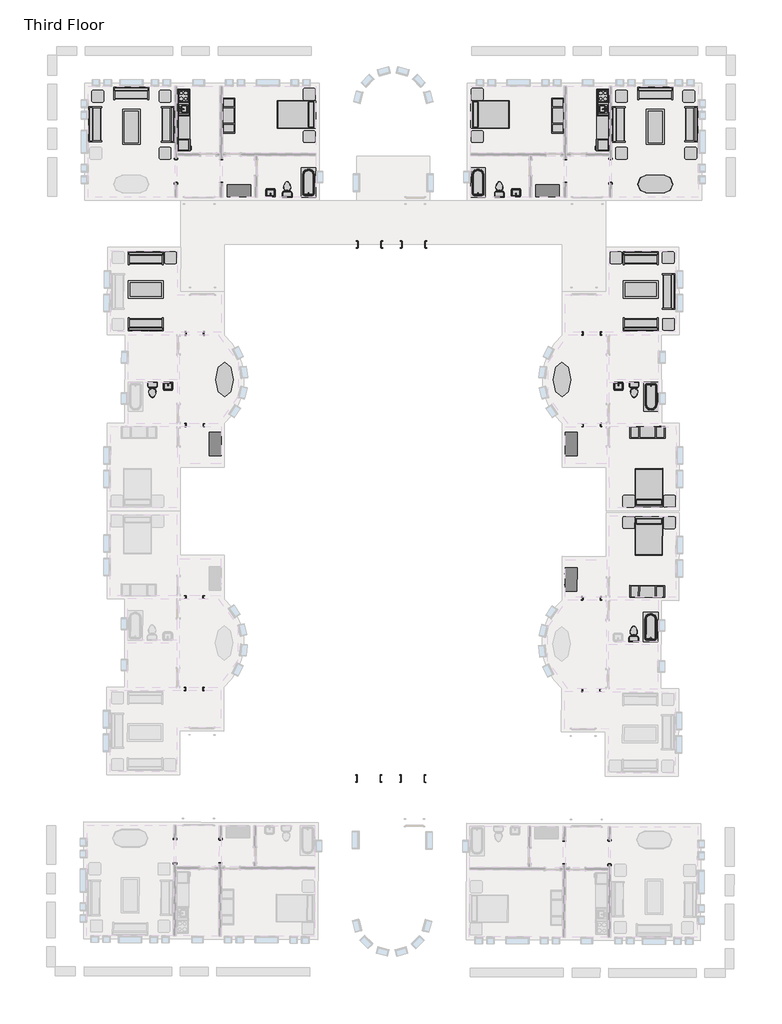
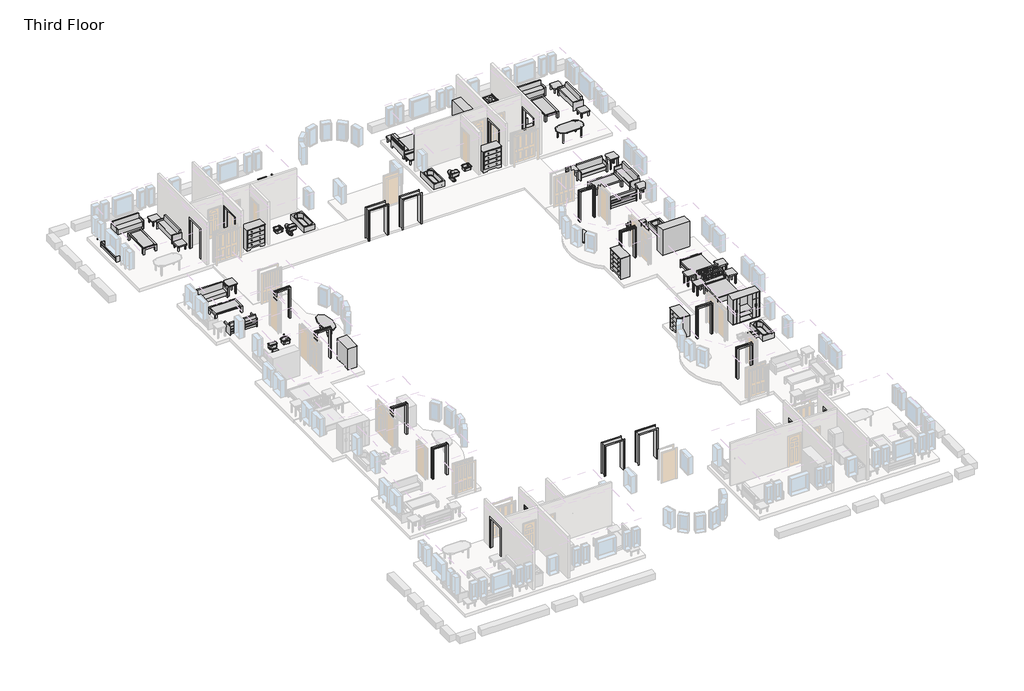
# One storey, part 5 of 5: 52 furniture elements, 28 proxies, 15 flow terminals.
"""IFC4 building model written with IfcOpenShell, lengths in millimetres."""

from ifc_helpers import new_model, si_unit, origin, place, context, project, spatial, transform, mapped, element, save
from components import m_cook_top_4_unit2_0615_x_500mm_249f3515, m_cook_top_4_unit2_0615_x_500mm_c91639ce, m_dishwasher_610_x_610_x_875mm_54ecfc4c, m_dishwasher_610_x_610_x_875mm_75336c20, m_kitchenette_medium_1372mm_e05c6bec, m_kitchenette_medium_1372mm_39f1532f, m_passage_opening_cased_0915_x_2134mm_b7ef4dee, m_passage_opening_cased_0915_x_2134mm_5e741ba8, m_passage_opening_cased_1220_x_2134mm_87a8d9c2, m_passage_opening_cased_1220_x_2134mm_f04423fa, m_passage_opening_cased_1220_x_2134mm_7296280d, m_passage_opening_cased_1220_x_2134mm_b92f2863, m_refrigerator_600_x_660mm_a466bf94, m_refrigerator_600_x_660mm_0a899b9c, m_sink_kitchen_island_450_x_450mm_f969cf2d, m_sink_kitchen_island_450_x_450mm_f6c2c534, m_sink_vanity_square_500_x_440mm_1e229b74, m_sink_vanity_square_500_x_440mm_f3cfe680, m_toilet_domestic_3d_m_toilet_domestic_3d_5cb52bd4, m_toilet_domestic_3d_m_toilet_domestic_3d_183bbd19, m_toilet_domestic_3d_m_toilet_domestic_3d_43425dfb, m_toilet_domestic_3d_m_toilet_domestic_3d_5530cc89, m_tub_rectangular_3d_m_tub_rectangular_3d_3a981ad5, m_tub_rectangular_3d_m_tub_rectangular_3d_c2020133, m_bed_shaker_1422_x_1981mm_double_096e7f55, m_bed_shaker_1422_x_1981mm_double_097b173b, m_counter_top_w_sink_hole_600mm_depth_1fb56bb9, m_counter_top_w_sink_hole_600mm_depth_7e9aa94d, m_dresser_1220_x_1525_x_0610mm_18e1f140, m_dresser_1220_x_1525_x_0610mm_4e5de046, m_entertainment_center_1830_x_1830_x_0610mm_f77a9b93, m_entertainment_center_1830_x_1830_x_0610mm_4f6058a0, m_sofa_1830mm_58d08fc1, m_sofa_1830mm_3da2e71b, m_sofa1_1830mm_f9e8a66b, m_sofa1_1830mm_493d6964, m_table_coffee_0915_x_1830_x_0457mm_134cd960, m_table_coffee_0915_x_1830_x_0457mm_595c1ebd, m_table_dining_oval_0915_x_1830mm_a7cfbe21, m_table_ellipse_1800_x_900mm_fd46d5a5, m_table_ellipse_1800_x_900mm_f7269293, m_table_end_cb6ea12e, m_table_end_aa2764bc, m_table_end_0610_x_0160mm_e0e5b28f, m_table_end_0610_x_0160mm_ccef8dc9

model = new_model("IFC4")

# Units and contexts
model_context = context("Model", 3, world=origin())
ifc_project = project(units=[si_unit("LENGTHUNIT", "METRE", prefix="MILLI")], contexts=[model_context])

# Site, building, storey
site = spatial("IfcSite", under=ifc_project)
building = spatial("IfcBuilding", under=site)
storey = spatial("IfcBuildingStorey", under=building, Name="Third Floor", Elevation=6096.0)

# Proxies
placement = place(None, origin())
m_cook_top_4_unit2_0615_x_500mm_shape = m_cook_top_4_unit2_0615_x_500mm_249f3515(model_context)
element("IfcBuildingElementProxy", 1, Name="M_Cook Top-4 Unit2 : 0615 x 500mm", ObjectType="M_Cook Top-4 Unit2 : 0615 x 500mm", at=placement, inside=storey, context=model_context, shape_type="MappedRepresentation", body=[
    mapped(m_cook_top_4_unit2_0615_x_500mm_shape, transform((-8054.9916203, 1914.054661, 6096.0), x_axis=(0.0, -1.0, 0.0), y_axis=(1.0, 0.0, 0.0), z_axis=(0.0, 0.0, 1.0))),
])
m_cook_top_4_unit2_0615_x_500mm_2_shape = m_cook_top_4_unit2_0615_x_500mm_c91639ce(model_context)
element("IfcBuildingElementProxy", 2, Name="M_Cook Top-4 Unit2 : 0615 x 500mm", ObjectType="M_Cook Top-4 Unit2 : 0615 x 500mm", at=placement, inside=storey, context=model_context, shape_type="MappedRepresentation", body=[
    mapped(m_cook_top_4_unit2_0615_x_500mm_2_shape, transform((-29859.1916203, 1914.054661, 6096.0), x_axis=(0.0, -1.0, 0.0), y_axis=(1.0, 0.0, 0.0), z_axis=(0.0, 0.0, 1.0))),
])
m_dishwasher_610_x_610_x_875mm_shape = m_dishwasher_610_x_610_x_875mm_54ecfc4c(model_context)
element("IfcBuildingElementProxy", 3, Name="M_Dishwasher : 610 x 610 x 875mm", ObjectType="M_Dishwasher : 610 x 610 x 875mm", at=placement, inside=storey, context=model_context, shape_type="MappedRepresentation", body=[
    mapped(m_dishwasher_610_x_610_x_875mm_shape, transform((-8321.6411851, 353.5721295, 6096.0), x_axis=(0.0, -1.0, 0.0), y_axis=(1.0, 0.0, 0.0), z_axis=(0.0, 0.0, 1.0))),
])
m_dishwasher_610_x_610_x_875mm_2_shape = m_dishwasher_610_x_610_x_875mm_75336c20(model_context)
element("IfcBuildingElementProxy", 4, Name="M_Dishwasher : 610 x 610 x 875mm", ObjectType="M_Dishwasher : 610 x 610 x 875mm", at=placement, inside=storey, context=model_context, shape_type="MappedRepresentation", body=[
    mapped(m_dishwasher_610_x_610_x_875mm_2_shape, transform((-29592.5420555, 353.5721295, 6096.0), x_axis=(0.0, -1.0, 0.0), y_axis=(1.0, 0.0, 0.0), z_axis=(0.0, 0.0, 1.0))),
])
m_kitchenette_medium_1372mm_shape = m_kitchenette_medium_1372mm_e05c6bec(model_context)
element("IfcBuildingElementProxy", 5, Name="M_Kitchenette - Medium : 1372mm", ObjectType="M_Kitchenette - Medium : 1372mm", at=placement, inside=storey, context=model_context, shape_type="MappedRepresentation", body=[
    mapped(m_kitchenette_medium_1372mm_shape, transform((-7749.9916203, 1589.7923659, 6096.0), x_axis=(0.0, -1.0, 0.0), y_axis=(1.0, 0.0, 0.0), z_axis=(0.0, 0.0, 1.0))),
])
m_kitchenette_medium_1372mm_2_shape = m_kitchenette_medium_1372mm_39f1532f(model_context)
element("IfcBuildingElementProxy", 6, Name="M_Kitchenette - Medium : 1372mm", ObjectType="M_Kitchenette - Medium : 1372mm", at=placement, inside=storey, context=model_context, shape_type="MappedRepresentation", body=[
    mapped(m_kitchenette_medium_1372mm_2_shape, transform((-30164.1916203, 1589.7923659, 6096.0), x_axis=(0.0, -1.0, 0.0), y_axis=(1.0, 0.0, 0.0), z_axis=(0.0, 0.0, 1.0))),
])
m_passage_opening_cased_0915_x_2134mm_shape = m_passage_opening_cased_0915_x_2134mm_b7ef4dee(model_context)
element("IfcBuildingElementProxy", 7, Name="M_Passage Opening-Cased : 0915 x 2134mm", ObjectType="M_Passage Opening-Cased : 0915 x 2134mm", at=placement, inside=storey, context=model_context, shape_type="MappedRepresentation", body=[
    mapped(m_passage_opening_cased_0915_x_2134mm_shape, transform((-29263.1209408, -10426.1057324, 6096.0), x_axis=(0.9999989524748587, -0.0014474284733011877, 0.0), y_axis=(0.0014474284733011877, 0.9999989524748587, 0.0), z_axis=(0.0, 0.0, 1.0))),
])
element("IfcBuildingElementProxy", 8, Name="M_Passage Opening-Cased : 0915 x 2134mm", ObjectType="M_Passage Opening-Cased : 0915 x 2134mm", at=placement, inside=storey, context=model_context, shape_type="MappedRepresentation", body=[
    mapped(m_passage_opening_cased_0915_x_2134mm_shape, transform((-29270.0280695, -15198.1007336, 6096.0), x_axis=(0.9999989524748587, -0.0014474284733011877, 0.0), y_axis=(0.0014474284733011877, 0.9999989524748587, 0.0), z_axis=(0.0, 0.0, 1.0))),
])
element("IfcBuildingElementProxy", 9, Name="M_Passage Opening-Cased : 0915 x 2134mm", ObjectType="M_Passage Opening-Cased : 0915 x 2134mm", at=placement, inside=storey, context=model_context, shape_type="MappedRepresentation", body=[
    mapped(m_passage_opening_cased_0915_x_2134mm_shape, transform((-8677.908724, -28973.7552644, 6096.0), x_axis=(-0.9999905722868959, 0.004342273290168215, 0.0), y_axis=(-0.004342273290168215, -0.9999905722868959, 0.0), z_axis=(0.0, 0.0, 1.0))),
])
element("IfcBuildingElementProxy", 10, Name="M_Passage Opening-Cased : 0915 x 2134mm", ObjectType="M_Passage Opening-Cased : 0915 x 2134mm", at=placement, inside=storey, context=model_context, shape_type="MappedRepresentation", body=[
    mapped(m_passage_opening_cased_0915_x_2134mm_shape, transform((-8657.1873959, -24201.8002534, 6096.0), x_axis=(-0.9999905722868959, 0.004342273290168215, 0.0), y_axis=(-0.004342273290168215, -0.9999905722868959, 0.0), z_axis=(0.0, 0.0, 1.0))),
])
m_passage_opening_cased_0915_x_2134mm_2_shape = m_passage_opening_cased_0915_x_2134mm_5e741ba8(model_context)
element("IfcBuildingElementProxy", 11, Name="M_Passage Opening-Cased : 0915 x 2134mm", ObjectType="M_Passage Opening-Cased : 0915 x 2134mm", at=placement, inside=storey, context=model_context, shape_type="MappedRepresentation", body=[
    mapped(m_passage_opening_cased_0915_x_2134mm_2_shape, transform((-8651.0622999, -10426.1057324, 6096.0), x_axis=(-0.9999989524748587, -0.0014474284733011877, 0.0), y_axis=(0.0014474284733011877, -0.9999989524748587, 0.0), z_axis=(0.0, 0.0, 1.0))),
])
element("IfcBuildingElementProxy", 12, Name="M_Passage Opening-Cased : 0915 x 2134mm", ObjectType="M_Passage Opening-Cased : 0915 x 2134mm", at=placement, inside=storey, context=model_context, shape_type="MappedRepresentation", body=[
    mapped(m_passage_opening_cased_0915_x_2134mm_2_shape, transform((-8644.1551712, -15198.1007336, 6096.0), x_axis=(-0.9999989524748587, -0.0014474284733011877, 0.0), y_axis=(0.0014474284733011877, -0.9999989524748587, 0.0), z_axis=(0.0, 0.0, 1.0))),
])
element("IfcBuildingElementProxy", 13, Name="M_Passage Opening-Cased : 0915 x 2134mm", ObjectType="M_Passage Opening-Cased : 0915 x 2134mm", at=placement, inside=storey, context=model_context, shape_type="MappedRepresentation", body=[
    mapped(m_passage_opening_cased_0915_x_2134mm_2_shape, transform((-29289.8809984, -28914.0863657, 6096.0), x_axis=(0.9999989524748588, -0.0014474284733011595, 0.0), y_axis=(0.0014474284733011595, 0.9999989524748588, 0.0), z_axis=(0.0, 0.0, 1.0))),
])
element("IfcBuildingElementProxy", 14, Name="M_Passage Opening-Cased : 0915 x 2134mm", ObjectType="M_Passage Opening-Cased : 0915 x 2134mm", at=placement, inside=storey, context=model_context, shape_type="MappedRepresentation", body=[
    mapped(m_passage_opening_cased_0915_x_2134mm_2_shape, transform((-29282.9738697, -24142.0913645, 6096.0), x_axis=(0.9999989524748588, -0.0014474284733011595, 0.0), y_axis=(0.0014474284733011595, 0.9999989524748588, 0.0), z_axis=(0.0, 0.0, 1.0))),
])
m_passage_opening_cased_1220_x_2134mm_shape = m_passage_opening_cased_1220_x_2134mm_87a8d9c2(model_context)
element("IfcBuildingElementProxy", 15, Name="M_Passage Opening-Cased : 1220 x 2134mm", ObjectType="M_Passage Opening-Cased : 1220 x 2134mm", at=placement, inside=storey, context=model_context, shape_type="MappedRepresentation", body=[
    mapped(m_passage_opening_cased_1220_x_2134mm_shape, transform((-7665.3416203, -1982.6925047, 6096.0), x_axis=(0.0, 1.0, 0.0), y_axis=(-1.0, 0.0, 0.0), z_axis=(0.0, 0.0, 1.0))),
])
element("IfcBuildingElementProxy", 16, Name="M_Passage Opening-Cased : 1220 x 2134mm", ObjectType="M_Passage Opening-Cased : 1220 x 2134mm", at=placement, inside=storey, context=model_context, shape_type="MappedRepresentation", body=[
    mapped(m_passage_opening_cased_1220_x_2134mm_shape, transform((-10019.0916203, -1999.0698181, 6096.0), x_axis=(0.0, -1.0, 0.0), y_axis=(1.0, 0.0, 0.0), z_axis=(0.0, 0.0, 1.0))),
])
element("IfcBuildingElementProxy", 17, Name="M_Passage Opening-Cased : 1220 x 2134mm", ObjectType="M_Passage Opening-Cased : 1220 x 2134mm", at=placement, inside=storey, context=model_context, shape_type="MappedRepresentation", body=[
    mapped(m_passage_opening_cased_1220_x_2134mm_shape, transform((-30300.0399955, -37354.6106974, 6096.0), x_axis=(-0.0028948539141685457, -0.9999958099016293, 0.0), y_axis=(0.9999958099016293, -0.0028948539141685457, 0.0), z_axis=(0.0, 0.0, 1.0))),
])
element("IfcBuildingElementProxy", 18, Name="M_Passage Opening-Cased : 1220 x 2134mm", ObjectType="M_Passage Opening-Cased : 1220 x 2134mm", at=placement, inside=storey, context=model_context, shape_type="MappedRepresentation", body=[
    mapped(m_passage_opening_cased_1220_x_2134mm_shape, transform((-27946.252448, -37345.047215, 6096.0), x_axis=(0.0028948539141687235, 0.9999958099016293, 0.0), y_axis=(-0.9999958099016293, 0.0028948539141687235, 0.0), z_axis=(0.0, 0.0, 1.0))),
])
m_passage_opening_cased_1220_x_2134mm_2_shape = m_passage_opening_cased_1220_x_2134mm_f04423fa(model_context)
element("IfcBuildingElementProxy", 19, Name="M_Passage Opening-Cased : 1220 x 2134mm", ObjectType="M_Passage Opening-Cased : 1220 x 2134mm", at=placement, inside=storey, context=model_context, shape_type="MappedRepresentation", body=[
    mapped(m_passage_opening_cased_1220_x_2134mm_2_shape, transform((-17916.280277, -5800.8811614, 6096.0), x_axis=(-1.0, 0.0, 0.0), y_axis=(0.0, -1.0, 0.0), z_axis=(0.0, 0.0, 1.0))),
])
element("IfcBuildingElementProxy", 20, Name="M_Passage Opening-Cased : 1220 x 2134mm", ObjectType="M_Passage Opening-Cased : 1220 x 2134mm", at=placement, inside=storey, context=model_context, shape_type="MappedRepresentation", body=[
    mapped(m_passage_opening_cased_1220_x_2134mm_2_shape, transform((-20185.9029636, -5800.8811614, 6096.0), x_axis=(1.0, 0.0, 0.0), y_axis=(0.0, 1.0, 0.0), z_axis=(0.0, 0.0, 1.0))),
])
m_passage_opening_cased_1220_x_2134mm_3_shape = m_passage_opening_cased_1220_x_2134mm_7296280d(model_context)
element("IfcBuildingElementProxy", 21, Name="M_Passage Opening-Cased : 1220 x 2134mm", ObjectType="M_Passage Opening-Cased : 1220 x 2134mm", at=placement, inside=storey, context=model_context, shape_type="MappedRepresentation", body=[
    mapped(m_passage_opening_cased_1220_x_2134mm_3_shape, transform((-30248.8416203, -1982.6925047, 6096.0), x_axis=(0.0, 1.0, 0.0), y_axis=(-1.0, 0.0, 0.0), z_axis=(0.0, 0.0, 1.0))),
])
element("IfcBuildingElementProxy", 22, Name="M_Passage Opening-Cased : 1220 x 2134mm", ObjectType="M_Passage Opening-Cased : 1220 x 2134mm", at=placement, inside=storey, context=model_context, shape_type="MappedRepresentation", body=[
    mapped(m_passage_opening_cased_1220_x_2134mm_3_shape, transform((-27895.0916203, -1999.0698181, 6096.0), x_axis=(0.0, -1.0, 0.0), y_axis=(1.0, 0.0, 0.0), z_axis=(0.0, 0.0, 1.0))),
])
element("IfcBuildingElementProxy", 23, Name="M_Passage Opening-Cased : 1220 x 2134mm", ObjectType="M_Passage Opening-Cased : 1220 x 2134mm", at=placement, inside=storey, context=model_context, shape_type="MappedRepresentation", body=[
    mapped(m_passage_opening_cased_1220_x_2134mm_3_shape, transform((-7716.6346226, -37419.9866307, 6096.0), x_axis=(-0.0028948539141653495, -0.9999958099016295, 0.0), y_axis=(0.9999958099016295, -0.0028948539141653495, 0.0), z_axis=(0.0, 0.0, 1.0))),
])
element("IfcBuildingElementProxy", 24, Name="M_Passage Opening-Cased : 1220 x 2134mm", ObjectType="M_Passage Opening-Cased : 1220 x 2134mm", at=placement, inside=storey, context=model_context, shape_type="MappedRepresentation", body=[
    mapped(m_passage_opening_cased_1220_x_2134mm_3_shape, transform((-10070.3273502, -37396.7956235, 6096.0), x_axis=(0.0028948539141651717, 0.9999958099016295, 0.0), y_axis=(-0.9999958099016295, 0.0028948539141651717, 0.0), z_axis=(0.0, 0.0, 1.0))),
])
m_passage_opening_cased_1220_x_2134mm_4_shape = m_passage_opening_cased_1220_x_2134mm_b92f2863(model_context)
element("IfcBuildingElementProxy", 25, Name="M_Passage Opening-Cased : 1220 x 2134mm", ObjectType="M_Passage Opening-Cased : 1220 x 2134mm", at=placement, inside=storey, context=model_context, shape_type="MappedRepresentation", body=[
    mapped(m_passage_opening_cased_1220_x_2134mm_4_shape, transform((-17956.4772285, -33572.1390027, 6096.0), x_axis=(-0.9999958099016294, 0.0028948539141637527, 0.0), y_axis=(-0.0028948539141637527, -0.9999958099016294, 0.0), z_axis=(0.0, 0.0, 1.0))),
])
element("IfcBuildingElementProxy", 26, Name="M_Passage Opening-Cased : 1220 x 2134mm", ObjectType="M_Passage Opening-Cased : 1220 x 2134mm", at=placement, inside=storey, context=model_context, shape_type="MappedRepresentation", body=[
    mapped(m_passage_opening_cased_1220_x_2134mm_4_shape, transform((-20226.0904051, -33565.5687766, 6096.0), x_axis=(0.9999958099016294, -0.0028948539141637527, 0.0), y_axis=(0.0028948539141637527, 0.9999958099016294, 0.0), z_axis=(0.0, 0.0, 1.0))),
])
m_refrigerator_600_x_660mm_shape = m_refrigerator_600_x_660mm_a466bf94(model_context)
element("IfcBuildingElementProxy", 27, Name="M_Refrigerator : 600 x 660mm", ObjectType="M_Refrigerator : 600 x 660mm", at=placement, inside=storey, context=model_context, shape_type="MappedRepresentation", body=[
    mapped(m_refrigerator_600_x_660mm_shape, transform((-8046.2067105, -687.7464817, 6096.0), x_axis=(0.0, -1.0, 0.0), y_axis=(1.0, 0.0, 0.0), z_axis=(0.0, 0.0, 1.0))),
])
m_refrigerator_600_x_660mm_2_shape = m_refrigerator_600_x_660mm_0a899b9c(model_context)
element("IfcBuildingElementProxy", 28, Name="M_Refrigerator : 600 x 660mm", ObjectType="M_Refrigerator : 600 x 660mm", at=placement, inside=storey, context=model_context, shape_type="MappedRepresentation", body=[
    mapped(m_refrigerator_600_x_660mm_2_shape, transform((-29867.9765301, -687.7464817, 6096.0), x_axis=(0.0, -1.0, 0.0), y_axis=(1.0, 0.0, 0.0), z_axis=(0.0, 0.0, 1.0))),
])

# Flow terminals
m_sink_kitchen_island_450_x_450mm_shape = m_sink_kitchen_island_450_x_450mm_f969cf2d(model_context)
element("IfcFlowTerminal", 29, ObjectType="M_Sink Kitchen-Island : 450 x 450mm", at=placement, inside=storey, context=model_context, shape_type="MappedRepresentation", body=[
    mapped(m_sink_kitchen_island_450_x_450mm_shape, transform((-8057.3370214, 1243.7439015, 6096.0), x_axis=(0.0, -1.0, 0.0), y_axis=(1.0, 0.0, 0.0), z_axis=(0.0, 0.0, 1.0))),
])
m_sink_kitchen_island_450_x_450mm_2_shape = m_sink_kitchen_island_450_x_450mm_f6c2c534(model_context)
element("IfcFlowTerminal", 30, ObjectType="M_Sink Kitchen-Island : 450 x 450mm", at=placement, inside=storey, context=model_context, shape_type="MappedRepresentation", body=[
    mapped(m_sink_kitchen_island_450_x_450mm_2_shape, transform((-29856.8462192, 1243.7439015, 6096.0), x_axis=(0.0, -1.0, 0.0), y_axis=(1.0, 0.0, 0.0), z_axis=(0.0, 0.0, 1.0))),
])
m_sink_vanity_square_500_x_440mm_shape = m_sink_vanity_square_500_x_440mm_1e229b74(model_context)
element("IfcFlowTerminal", 31, ObjectType="M_Sink Vanity-Square : 500 x 440mm", at=placement, inside=storey, context=model_context, shape_type="MappedRepresentation", body=[
    mapped(m_sink_vanity_square_500_x_440mm_shape, transform((-12563.5523798, -3158.1107603, 6096.0), x_axis=(-1.0, 0.0, 0.0), y_axis=(0.0, -1.0, 0.0), z_axis=(0.0, 0.0, 1.0))),
])
element("IfcFlowTerminal", 32, ObjectType="M_Sink Vanity-Square : 500 x 440mm", at=placement, inside=storey, context=model_context, shape_type="MappedRepresentation", body=[
    mapped(m_sink_vanity_square_500_x_440mm_shape, transform((-30677.3455366, -13134.5069817, 6096.0), x_axis=(0.9999989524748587, -0.001447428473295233, 0.0), y_axis=(0.0014474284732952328, 0.9999989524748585, 0.0), z_axis=(0.0, 0.0, 0.9999999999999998))),
])
m_sink_vanity_square_500_x_440mm_2_shape = m_sink_vanity_square_500_x_440mm_f3cfe680(model_context)
element("IfcFlowTerminal", 33, ObjectType="M_Sink Vanity-Square : 500 x 440mm", at=placement, inside=storey, context=model_context, shape_type="MappedRepresentation", body=[
    mapped(m_sink_vanity_square_500_x_440mm_2_shape, transform((-7236.8377041, -13134.5069817, 6096.0), x_axis=(-0.9999989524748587, -0.001447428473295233, 0.0), y_axis=(0.0014474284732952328, -0.9999989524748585, 0.0), z_axis=(0.0, 0.0, 0.9999999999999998))),
])
element("IfcFlowTerminal", 34, ObjectType="M_Sink Vanity-Square : 500 x 440mm", at=placement, inside=storey, context=model_context, shape_type="MappedRepresentation", body=[
    mapped(m_sink_vanity_square_500_x_440mm_2_shape, transform((-25350.6308609, -3158.1107603, 6096.0), x_axis=(1.0, 0.0, 0.0), y_axis=(0.0, 1.0, 0.0), z_axis=(0.0, 0.0, 1.0))),
])
m_toilet_domestic_3d_m_toilet_domestic_3d_shape = m_toilet_domestic_3d_m_toilet_domestic_3d_5cb52bd4(model_context)
m_toilet_domestic_3d_m_toilet_domestic_3d_2_shape = m_toilet_domestic_3d_m_toilet_domestic_3d_183bbd19(model_context)
element("IfcFlowTerminal", 35, ObjectType="M_Toilet-Domestic-3D : M_Toilet-Domestic-3D", at=placement, inside=storey, context=model_context, shape_type="MappedRepresentation", body=[
    mapped(m_toilet_domestic_3d_m_toilet_domestic_3d_shape, transform((-13440.7376477, -2845.185134, 6096.0), x_axis=(-1.0, 0.0, 0.0), y_axis=(0.0, -1.0, 0.0), z_axis=(0.0, 0.0, 1.0))),
    mapped(m_toilet_domestic_3d_m_toilet_domestic_3d_2_shape, transform((-13440.7376477, -2845.185134, 6096.0), x_axis=(-1.0, 0.0, 0.0), y_axis=(0.0, -1.0, 0.0), z_axis=(0.0, 0.0, 1.0))),
])
m_toilet_domestic_3d_m_toilet_domestic_3d_3_shape = m_toilet_domestic_3d_m_toilet_domestic_3d_43425dfb(model_context)
m_toilet_domestic_3d_m_toilet_domestic_3d_4_shape = m_toilet_domestic_3d_m_toilet_domestic_3d_5530cc89(model_context)
element("IfcFlowTerminal", 36, ObjectType="M_Toilet-Domestic-3D : M_Toilet-Domestic-3D", at=placement, inside=storey, context=model_context, shape_type="MappedRepresentation", body=[
    mapped(m_toilet_domestic_3d_m_toilet_domestic_3d_3_shape, transform((-24473.445593, -2845.185134, 6096.0), x_axis=(1.0, 0.0, 0.0), y_axis=(0.0, 1.0, 0.0), z_axis=(0.0, 0.0, 1.0))),
    mapped(m_toilet_domestic_3d_m_toilet_domestic_3d_4_shape, transform((-24473.445593, -2845.185134, 6096.0), x_axis=(1.0, 0.0, 0.0), y_axis=(0.0, 1.0, 0.0), z_axis=(0.0, 0.0, 1.0))),
])
element("IfcFlowTerminal", 37, ObjectType="M_Toilet-Domestic-3D1 : M_Toilet-Domestic-3D", at=placement, inside=storey, context=model_context, shape_type="MappedRepresentation", body=[
    mapped(m_toilet_domestic_3d_m_toilet_domestic_3d_shape, transform((-31475.0435019, -13456.0033339, 6096.0), x_axis=(0.9999989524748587, -0.001447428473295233, 0.0), y_axis=(0.0014474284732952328, 0.9999989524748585, 0.0), z_axis=(0.0, 0.0, 0.9999999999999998))),
    mapped(m_toilet_domestic_3d_m_toilet_domestic_3d_2_shape, transform((-31475.0435019, -13456.0033339, 6096.0), x_axis=(0.9999989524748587, -0.001447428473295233, 0.0), y_axis=(0.0014474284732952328, 0.9999989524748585, 0.0), z_axis=(0.0, 0.0, 0.9999999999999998))),
])
element("IfcFlowTerminal", 38, ObjectType="M_Toilet-Domestic-3D1 : M_Toilet-Domestic-3D", at=placement, inside=storey, context=model_context, shape_type="MappedRepresentation", body=[
    mapped(m_toilet_domestic_3d_m_toilet_domestic_3d_shape, transform((-6457.2243201, -25950.2735511, 6096.0), x_axis=(-0.9999905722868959, 0.00434227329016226, 0.0), y_axis=(-0.0043422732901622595, -0.9999905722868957, 0.0), z_axis=(0.0, 0.0, 0.9999999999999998))),
    mapped(m_toilet_domestic_3d_m_toilet_domestic_3d_2_shape, transform((-6457.2243201, -25950.2735511, 6096.0), x_axis=(-0.9999905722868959, 0.00434227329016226, 0.0), y_axis=(-0.0043422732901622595, -0.9999905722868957, 0.0), z_axis=(0.0, 0.0, 0.9999999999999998))),
])
element("IfcFlowTerminal", 39, ObjectType="M_Toilet-Domestic-3D1 : M_Toilet-Domestic-3D", at=placement, inside=storey, context=model_context, shape_type="MappedRepresentation", body=[
    mapped(m_toilet_domestic_3d_m_toilet_domestic_3d_3_shape, transform((-6439.1397387, -13456.0033339, 6096.0), x_axis=(-0.9999989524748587, -0.001447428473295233, 0.0), y_axis=(0.0014474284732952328, -0.9999989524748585, 0.0), z_axis=(0.0, 0.0, 0.9999999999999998))),
    mapped(m_toilet_domestic_3d_m_toilet_domestic_3d_4_shape, transform((-6439.1397387, -13456.0033339, 6096.0), x_axis=(-0.9999989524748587, -0.001447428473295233, 0.0), y_axis=(0.0014474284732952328, -0.9999989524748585, 0.0), z_axis=(0.0, 0.0, 0.9999999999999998))),
])
m_tub_rectangular_3d_m_tub_rectangular_3d_shape = m_tub_rectangular_3d_m_tub_rectangular_3d_3a981ad5(model_context)
element("IfcFlowTerminal", 40, ObjectType="M_Tub-Rectangular-3D : M_Tub-Rectangular-3D", at=placement, inside=storey, context=model_context, shape_type="MappedRepresentation", body=[
    mapped(m_tub_rectangular_3d_m_tub_rectangular_3d_shape, transform((-15110.3416203, -2229.2781927, 6096.0), x_axis=(0.0, 1.0, 0.0), y_axis=(-1.0, 0.0, 0.0), z_axis=(0.0, 0.0, 1.0))),
])
element("IfcFlowTerminal", 41, ObjectType="M_Tub-Rectangular-3D : M_Tub-Rectangular-3D", at=placement, inside=storey, context=model_context, shape_type="MappedRepresentation", body=[
    mapped(m_tub_rectangular_3d_m_tub_rectangular_3d_shape, transform((-5003.7957874, -14069.8333606, 6096.0), x_axis=(0.0014474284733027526, -0.9999989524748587, 0.0), y_axis=(0.9999989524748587, 0.0014474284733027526, 0.0), z_axis=(0.0, 0.0, 1.0))),
])
m_tub_rectangular_3d_m_tub_rectangular_3d_2_shape = m_tub_rectangular_3d_m_tub_rectangular_3d_c2020133(model_context)
element("IfcFlowTerminal", 42, ObjectType="M_Tub-Rectangular-3D : M_Tub-Rectangular-3D", at=placement, inside=storey, context=model_context, shape_type="MappedRepresentation", body=[
    mapped(m_tub_rectangular_3d_m_tub_rectangular_3d_2_shape, transform((-22803.8416203, -2229.2781927, 6096.0), x_axis=(0.0, 1.0, 0.0), y_axis=(-1.0, 0.0, 0.0), z_axis=(0.0, 0.0, 1.0))),
])
element("IfcFlowTerminal", 43, ObjectType="M_Tub-Rectangular-3D : M_Tub-Rectangular-3D", at=placement, inside=storey, context=model_context, shape_type="MappedRepresentation", body=[
    mapped(m_tub_rectangular_3d_m_tub_rectangular_3d_2_shape, transform((-5020.1094348, -25340.6012075, 6096.0), x_axis=(0.004342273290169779, 0.9999905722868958, 0.0), y_axis=(-0.9999905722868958, 0.004342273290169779, 0.0), z_axis=(0.0, 0.0, 1.0))),
])

# Furniture
m_bed_shaker_1422_x_1981mm_double_shape = m_bed_shaker_1422_x_1981mm_double_096e7f55(model_context)
element("IfcFurniture", 44, ObjectType="M_Bed-Shaker : 1422 x 1981mm - Double", at=placement, inside=storey, context=model_context, shape_type="MappedRepresentation", body=[
    mapped(m_bed_shaker_1422_x_1981mm_double_shape, transform((-14905.3416203, 963.9688386, 6096.0), x_axis=(0.0, 1.0, 0.0), y_axis=(-1.0, 0.0, 0.0), z_axis=(0.0, 0.0, 1.0))),
])
element("IfcFurniture", 45, ObjectType="M_Bed-Shaker : 1422 x 1981mm - Double", at=placement, inside=storey, context=model_context, shape_type="MappedRepresentation", body=[
    mapped(m_bed_shaker_1422_x_1981mm_double_shape, transform((-5649.5787089, -19977.8202898, 6096.0), x_axis=(0.9999905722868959, -0.004342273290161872, 0.0), y_axis=(0.004342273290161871, 0.9999905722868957, 0.0), z_axis=(0.0, 0.0, 0.9999999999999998))),
])
m_bed_shaker_1422_x_1981mm_double_2_shape = m_bed_shaker_1422_x_1981mm_double_097b173b(model_context)
element("IfcFurniture", 46, ObjectType="M_Bed-Shaker : 1422 x 1981mm - Double", at=placement, inside=storey, context=model_context, shape_type="MappedRepresentation", body=[
    mapped(m_bed_shaker_1422_x_1981mm_double_2_shape, transform((-5648.7868913, -19430.7695861, 6096.0), x_axis=(0.9999989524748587, 0.0014474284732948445, 0.0), y_axis=(-0.0014474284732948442, 0.9999989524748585, 0.0), z_axis=(0.0, 0.0, 0.9999999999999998))),
])
element("IfcFurniture", 47, ObjectType="M_Bed-Shaker : 1422 x 1981mm - Double", at=placement, inside=storey, context=model_context, shape_type="MappedRepresentation", body=[
    mapped(m_bed_shaker_1422_x_1981mm_double_2_shape, transform((-23008.8416203, 963.9688386, 6096.0), x_axis=(0.0, 1.0, 0.0), y_axis=(-1.0, 0.0, 0.0), z_axis=(0.0, 0.0, 1.0))),
])
m_counter_top_w_sink_hole_600mm_depth_shape = m_counter_top_w_sink_hole_600mm_depth_1fb56bb9(model_context)
element("IfcFurniture", 48, ObjectType="M_Counter Top w Sink Hole : 600mm Depth", at=placement, inside=storey, context=model_context, shape_type="MappedRepresentation", body=[
    mapped(m_counter_top_w_sink_hole_600mm_depth_shape, transform((-7749.9916203, 1056.5923659, 6096.0), x_axis=(0.0, -1.0, 0.0), y_axis=(1.0, 0.0, 0.0), z_axis=(0.0, 0.0, 1.0))),
])
m_counter_top_w_sink_hole_600mm_depth_2_shape = m_counter_top_w_sink_hole_600mm_depth_7e9aa94d(model_context)
element("IfcFurniture", 49, ObjectType="M_Counter Top w Sink Hole : 600mm Depth", at=placement, inside=storey, context=model_context, shape_type="MappedRepresentation", body=[
    mapped(m_counter_top_w_sink_hole_600mm_depth_2_shape, transform((-30164.1916203, 1056.5923659, 6096.0), x_axis=(0.0, -1.0, 0.0), y_axis=(1.0, 0.0, 0.0), z_axis=(0.0, 0.0, 1.0))),
])
m_dresser_1220_x_1525_x_0610mm_shape = m_dresser_1220_x_1525_x_0610mm_18e1f140(model_context)
element("IfcFurniture", 50, ObjectType="M_Dresser : 1220 x 1525 x 0610mm", at=placement, inside=storey, context=model_context, shape_type="MappedRepresentation", body=[
    mapped(m_dresser_1220_x_1525_x_0610mm_shape, transform((-10667.6483605, -2647.7182073, 6096.0), x_axis=(1.0, 0.0, 0.0), y_axis=(0.0, 1.0, 0.0), z_axis=(0.0, 0.0, 1.0))),
])
element("IfcFurniture", 51, ObjectType="M_Dresser : 1220 x 1525 x 0610mm", at=placement, inside=storey, context=model_context, shape_type="MappedRepresentation", body=[
    mapped(m_dresser_1220_x_1525_x_0610mm_shape, transform((-28574.6164889, -15914.9147832, 6096.0), x_axis=(0.0014474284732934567, 0.9999989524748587, 0.0), y_axis=(-0.9999989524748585, 0.0014474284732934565, 0.0), z_axis=(0.0, 0.0, 0.9999999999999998))),
])
element("IfcFurniture", 52, ObjectType="M_Dresser : 1220 x 1525 x 0610mm", at=placement, inside=storey, context=model_context, shape_type="MappedRepresentation", body=[
    mapped(m_dresser_1220_x_1525_x_0610mm_shape, transform((-9350.5209907, -23482.9760924, 6096.0), x_axis=(-0.004342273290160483, -0.9999905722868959, 0.0), y_axis=(0.9999905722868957, -0.004342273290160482, 0.0), z_axis=(0.0, 0.0, 0.9999999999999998))),
])
m_dresser_1220_x_1525_x_0610mm_2_shape = m_dresser_1220_x_1525_x_0610mm_4e5de046(model_context)
element("IfcFurniture", 53, ObjectType="M_Dresser : 1220 x 1525 x 0610mm", at=placement, inside=storey, context=model_context, shape_type="MappedRepresentation", body=[
    mapped(m_dresser_1220_x_1525_x_0610mm_2_shape, transform((-9339.5667518, -15914.9147832, 6096.0), x_axis=(-0.0014474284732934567, 0.9999989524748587, 0.0), y_axis=(-0.9999989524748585, -0.0014474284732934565, 0.0), z_axis=(0.0, 0.0, 0.9999999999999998))),
])
element("IfcFurniture", 54, ObjectType="M_Dresser : 1220 x 1525 x 0610mm", at=placement, inside=storey, context=model_context, shape_type="MappedRepresentation", body=[
    mapped(m_dresser_1220_x_1525_x_0610mm_2_shape, transform((-27246.5348802, -2647.7182073, 6096.0), x_axis=(-1.0, 0.0, 0.0), y_axis=(0.0, -1.0, 0.0), z_axis=(0.0, 0.0, 1.0))),
])
m_entertainment_center_1830_x_1830_x_0610mm_shape = m_entertainment_center_1830_x_1830_x_0610mm_f77a9b93(model_context)
element("IfcFurniture", 55, ObjectType="M_Entertainment center : 1830 x 1830 x 0610mm", at=placement, inside=storey, context=model_context, shape_type="MappedRepresentation", body=[
    mapped(m_entertainment_center_1830_x_1830_x_0610mm_shape, transform((-10818.2416203, 891.1188386, 6096.0), x_axis=(0.0, 1.0, 0.0), y_axis=(-1.0, 0.0, 0.0), z_axis=(0.0, 0.0, 1.0))),
])
element("IfcFurniture", 56, ObjectType="M_Entertainment center : 1830 x 1830 x 0610mm", at=placement, inside=storey, context=model_context, shape_type="MappedRepresentation", body=[
    mapped(m_entertainment_center_1830_x_1830_x_0610mm_shape, transform((-5751.8113346, -23428.0088952, 6096.0), x_axis=(0.9999905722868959, -0.004342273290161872, 0.0), y_axis=(0.004342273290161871, 0.9999905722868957, 0.0), z_axis=(0.0, 0.0, 0.9999999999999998))),
])
m_entertainment_center_1830_x_1830_x_0610mm_2_shape = m_entertainment_center_1830_x_1830_x_0610mm_4f6058a0(model_context)
element("IfcFurniture", 57, ObjectType="M_Entertainment center : 1830 x 1830 x 0610mm", at=placement, inside=storey, context=model_context, shape_type="MappedRepresentation", body=[
    mapped(m_entertainment_center_1830_x_1830_x_0610mm_2_shape, transform((-5741.0312966, -15980.2994888, 6096.0), x_axis=(0.9999989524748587, 0.0014474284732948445, 0.0), y_axis=(-0.0014474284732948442, 0.9999989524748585, 0.0), z_axis=(0.0, 0.0, 0.9999999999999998))),
])
element("IfcFurniture", 58, ObjectType="M_Entertainment center : 1830 x 1830 x 0610mm", at=placement, inside=storey, context=model_context, shape_type="MappedRepresentation", body=[
    mapped(m_entertainment_center_1830_x_1830_x_0610mm_2_shape, transform((-27095.9416203, 891.1188386, 6096.0), x_axis=(0.0, 1.0, 0.0), y_axis=(-1.0, 0.0, 0.0), z_axis=(0.0, 0.0, 1.0))),
])
m_sofa_1830mm_shape = m_sofa_1830mm_58d08fc1(model_context)
element("IfcFurniture", 59, ObjectType="M_Sofa : 1830mm", at=placement, inside=storey, context=model_context, shape_type="MappedRepresentation", body=[
    mapped(m_sofa_1830mm_shape, transform((-5413.7121121, 1899.9647403, 6096.0), x_axis=(1.0, 0.0, 0.0), y_axis=(0.0, 1.0, 0.0), z_axis=(0.0, 0.0, 1.0))),
])
element("IfcFurniture", 60, ObjectType="M_Sofa : 1830mm", at=placement, inside=storey, context=model_context, shape_type="MappedRepresentation", body=[
    mapped(m_sofa_1830mm_shape, transform((-3617.1736471, 517.2688343, 6096.0), x_axis=(0.0, -1.0, 0.0), y_axis=(1.0, 0.0, 0.0), z_axis=(0.0, 0.0, 1.0))),
])
element("IfcFurniture", 61, ObjectType="M_Sofa : 1830mm", at=placement, inside=storey, context=model_context, shape_type="MappedRepresentation", body=[
    mapped(m_sofa_1830mm_shape, transform((-7088.437522, 355.7483468, 6096.0), x_axis=(0.0, 1.0, 0.0), y_axis=(-1.0, 0.0, 0.0), z_axis=(0.0, 0.0, 1.0))),
])
m_sofa_1830mm_2_shape = m_sofa_1830mm_3da2e71b(model_context)
element("IfcFurniture", 62, ObjectType="M_Sofa : 1830mm", at=placement, inside=storey, context=model_context, shape_type="MappedRepresentation", body=[
    mapped(m_sofa_1830mm_2_shape, transform((-32500.4711285, 1899.9647403, 6096.0), x_axis=(-1.0, 0.0, 0.0), y_axis=(0.0, -1.0, 0.0), z_axis=(0.0, 0.0, 1.0))),
])
element("IfcFurniture", 63, ObjectType="M_Sofa : 1830mm", at=placement, inside=storey, context=model_context, shape_type="MappedRepresentation", body=[
    mapped(m_sofa_1830mm_2_shape, transform((-34297.0095936, 517.2688343, 6096.0), x_axis=(0.0, -1.0, 0.0), y_axis=(1.0, 0.0, 0.0), z_axis=(0.0, 0.0, 1.0))),
])
element("IfcFurniture", 64, ObjectType="M_Sofa : 1830mm", at=placement, inside=storey, context=model_context, shape_type="MappedRepresentation", body=[
    mapped(m_sofa_1830mm_2_shape, transform((-30825.7457187, 355.7483468, 6096.0), x_axis=(0.0, 1.0, 0.0), y_axis=(-1.0, 0.0, 0.0), z_axis=(0.0, 0.0, 1.0))),
])
m_sofa1_1830mm_shape = m_sofa1_1830mm_f9e8a66b(model_context)
element("IfcFurniture", 65, ObjectType="M_Sofa1 : 1830mm", at=placement, inside=storey, context=model_context, shape_type="MappedRepresentation", body=[
    mapped(m_sofa1_1830mm_shape, transform((-31753.247914, -9808.5967065, 6096.0), x_axis=(-0.9999989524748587, 0.0014474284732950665, 0.0), y_axis=(-0.0014474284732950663, -0.9999989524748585, 0.0), z_axis=(0.0, 0.0, 0.9999999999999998))),
])
element("IfcFurniture", 66, ObjectType="M_Sofa1 : 1830mm", at=placement, inside=storey, context=model_context, shape_type="MappedRepresentation", body=[
    mapped(m_sofa1_1830mm_shape, transform((-31889.4482513, -6671.4544767, 6096.0), x_axis=(0.9999989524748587, -0.001447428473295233, 0.0), y_axis=(0.0014474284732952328, 0.9999989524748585, 0.0), z_axis=(0.0, 0.0, 0.9999999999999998))),
])
m_sofa1_1830mm_2_shape = m_sofa1_1830mm_493d6964(model_context)
element("IfcFurniture", 67, ObjectType="M_Sofa1 : 1830mm", at=placement, inside=storey, context=model_context, shape_type="MappedRepresentation", body=[
    mapped(m_sofa1_1830mm_2_shape, transform((-4803.866496, -8323.9054813, 6096.0), x_axis=(-0.0014474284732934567, 0.9999989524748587, 0.0), y_axis=(-0.9999989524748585, -0.0014474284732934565, 0.0), z_axis=(0.0, 0.0, 0.9999999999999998))),
])
element("IfcFurniture", 68, ObjectType="M_Sofa1 : 1830mm", at=placement, inside=storey, context=model_context, shape_type="MappedRepresentation", body=[
    mapped(m_sofa1_1830mm_2_shape, transform((-6160.9353266, -9808.5967065, 6096.0), x_axis=(0.9999989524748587, 0.0014474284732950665, 0.0), y_axis=(-0.0014474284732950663, 0.9999989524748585, 0.0), z_axis=(0.0, 0.0, 0.9999999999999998))),
])
element("IfcFurniture", 69, ObjectType="M_Sofa1 : 1830mm", at=placement, inside=storey, context=model_context, shape_type="MappedRepresentation", body=[
    mapped(m_sofa1_1830mm_2_shape, transform((-6024.7349893, -6671.4544767, 6096.0), x_axis=(-0.9999989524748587, -0.001447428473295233, 0.0), y_axis=(0.0014474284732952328, -0.9999989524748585, 0.0), z_axis=(0.0, 0.0, 0.9999999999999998))),
])
m_table_coffee_0915_x_1830_x_0457mm_shape = m_table_coffee_0915_x_1830_x_0457mm_134cd960(model_context)
element("IfcFurniture", 70, ObjectType="M_Table-Coffee : 0915 x 1830 x 0457mm", at=placement, inside=storey, context=model_context, shape_type="MappedRepresentation", body=[
    mapped(m_table_coffee_0915_x_1830_x_0457mm_shape, transform((-5248.1305425, 287.8530719, 6096.0), x_axis=(0.0, 1.0, 0.0), y_axis=(-1.0, 0.0, 0.0), z_axis=(0.0, 0.0, 1.0))),
])
element("IfcFurniture", 71, ObjectType="M_Table-Coffee : 0915 x 1830 x 0457mm", at=placement, inside=storey, context=model_context, shape_type="MappedRepresentation", body=[
    mapped(m_table_coffee_0915_x_1830_x_0457mm_shape, transform((-31802.8209497, -8059.4661414, 6096.0), x_axis=(-0.9999989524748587, 0.0014474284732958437, 0.0), y_axis=(-0.0014474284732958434, -0.9999989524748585, 0.0), z_axis=(0.0, 0.0, 0.9999999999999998))),
])
m_table_coffee_0915_x_1830_x_0457mm_2_shape = m_table_coffee_0915_x_1830_x_0457mm_595c1ebd(model_context)
element("IfcFurniture", 72, ObjectType="M_Table-Coffee : 0915 x 1830 x 0457mm", at=placement, inside=storey, context=model_context, shape_type="MappedRepresentation", body=[
    mapped(m_table_coffee_0915_x_1830_x_0457mm_2_shape, transform((-6111.362291, -8059.4661414, 6096.0), x_axis=(0.9999989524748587, 0.0014474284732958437, 0.0), y_axis=(-0.0014474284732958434, 0.9999989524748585, 0.0), z_axis=(0.0, 0.0, 0.9999999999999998))),
])
element("IfcFurniture", 73, ObjectType="M_Table-Coffee : 0915 x 1830 x 0457mm", at=placement, inside=storey, context=model_context, shape_type="MappedRepresentation", body=[
    mapped(m_table_coffee_0915_x_1830_x_0457mm_2_shape, transform((-32666.0526981, 287.8530719, 6096.0), x_axis=(0.0, 1.0, 0.0), y_axis=(-1.0, 0.0, 0.0), z_axis=(0.0, 0.0, 1.0))),
])
m_table_dining_oval_0915_x_1830mm_shape = m_table_dining_oval_0915_x_1830mm_a7cfbe21(model_context)
element("IfcFurniture", 74, ObjectType="M_Table-Dining Oval : 0915 x 1830mm", at=placement, inside=storey, context=model_context, shape_type="MappedRepresentation", body=[
    mapped(m_table_dining_oval_0915_x_1830mm_shape, transform((-4941.5219482, -2305.2828007, 6096.0), x_axis=(1.0, 0.0, 0.0), y_axis=(0.0, 1.0, 0.0), z_axis=(0.0, 0.0, 1.0))),
])
m_table_ellipse_1800_x_900mm_shape = m_table_ellipse_1800_x_900mm_fd46d5a5(model_context)
element("IfcFurniture", 75, ObjectType="M_Table-Ellipse : 1800 x 900mm", at=placement, inside=storey, context=model_context, shape_type="MappedRepresentation", body=[
    mapped(m_table_ellipse_1800_x_900mm_shape, transform((-27726.9892362, -12831.2316926, 6096.0), x_axis=(0.0014474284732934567, 0.9999989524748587, 0.0), y_axis=(-0.9999989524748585, 0.0014474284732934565, 0.0), z_axis=(0.0, 0.0, 0.9999999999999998))),
])
m_table_ellipse_1800_x_900mm_2_shape = m_table_ellipse_1800_x_900mm_f7269293(model_context)
element("IfcFurniture", 76, ObjectType="M_Table-Ellipse : 1800 x 900mm", at=placement, inside=storey, context=model_context, shape_type="MappedRepresentation", body=[
    mapped(m_table_ellipse_1800_x_900mm_2_shape, transform((-10187.1940045, -12831.2316926, 6096.0), x_axis=(-0.0014474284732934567, 0.9999989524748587, 0.0), y_axis=(-0.9999989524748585, -0.0014474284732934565, 0.0), z_axis=(0.0, 0.0, 0.9999999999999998))),
])
m_table_end_shape = m_table_end_cb6ea12e(model_context)
element("IfcFurniture", 77, ObjectType="M_Table-End : 0610 x 0160mm altered height", at=placement, inside=storey, context=model_context, shape_type="MappedRepresentation", body=[
    mapped(m_table_end_shape, transform((-7407.0752506, 1748.7188386, 6096.0), x_axis=(1.0, 0.0, 0.0), y_axis=(0.0, 1.0, 0.0), z_axis=(0.0, 0.0, 1.0))),
])
element("IfcFurniture", 78, ObjectType="M_Table-End : 0610 x 0160mm altered height", at=placement, inside=storey, context=model_context, shape_type="MappedRepresentation", body=[
    mapped(m_table_end_shape, transform((-3907.0752506, 1748.7188386, 6096.0), x_axis=(1.0, 0.0, 0.0), y_axis=(0.0, 1.0, 0.0), z_axis=(0.0, 0.0, 1.0))),
])
element("IfcFurniture", 79, ObjectType="M_Table-End : 0610 x 0160mm altered height", at=placement, inside=storey, context=model_context, shape_type="MappedRepresentation", body=[
    mapped(m_table_end_shape, transform((-3807.0752506, -1222.7811614, 6096.0), x_axis=(1.0, 0.0, 0.0), y_axis=(0.0, 1.0, 0.0), z_axis=(0.0, 0.0, 1.0))),
])
element("IfcFurniture", 80, ObjectType="M_Table-End : 0610 x 0160mm altered height", at=placement, inside=storey, context=model_context, shape_type="MappedRepresentation", body=[
    mapped(m_table_end_shape, transform((-7407.0752506, -1222.7811614, 6096.0), x_axis=(1.0, 0.0, 0.0), y_axis=(0.0, 1.0, 0.0), z_axis=(0.0, 0.0, 1.0))),
])
element("IfcFurniture", 81, ObjectType="M_Table-End : 0610 x 0160mm altered height", at=placement, inside=storey, context=model_context, shape_type="MappedRepresentation", body=[
    mapped(m_table_end_shape, transform((-14899.0752506, -351.2811614, 6096.0), x_axis=(1.0, 0.0, 0.0), y_axis=(0.0, 1.0, 0.0), z_axis=(0.0, 0.0, 1.0))),
])
element("IfcFurniture", 82, ObjectType="M_Table-End : 0610 x 0160mm altered height", at=placement, inside=storey, context=model_context, shape_type="MappedRepresentation", body=[
    mapped(m_table_end_shape, transform((-14899.0752506, 1848.7188386, 6096.0), x_axis=(1.0, 0.0, 0.0), y_axis=(0.0, 1.0, 0.0), z_axis=(0.0, 0.0, 1.0))),
])
m_table_end_2_shape = m_table_end_aa2764bc(model_context)
element("IfcFurniture", 83, ObjectType="M_Table-End : 0610 x 0160mm altered height", at=placement, inside=storey, context=model_context, shape_type="MappedRepresentation", body=[
    mapped(m_table_end_2_shape, transform((-30507.10799, 1748.7188386, 6096.0), x_axis=(-1.0, 0.0, 0.0), y_axis=(0.0, -1.0, 0.0), z_axis=(0.0, 0.0, 1.0))),
])
element("IfcFurniture", 84, ObjectType="M_Table-End : 0610 x 0160mm altered height", at=placement, inside=storey, context=model_context, shape_type="MappedRepresentation", body=[
    mapped(m_table_end_2_shape, transform((-34007.10799, 1748.7188386, 6096.0), x_axis=(-1.0, 0.0, 0.0), y_axis=(0.0, -1.0, 0.0), z_axis=(0.0, 0.0, 1.0))),
])
element("IfcFurniture", 85, ObjectType="M_Table-End : 0610 x 0160mm altered height", at=placement, inside=storey, context=model_context, shape_type="MappedRepresentation", body=[
    mapped(m_table_end_2_shape, transform((-30507.10799, -1222.7811614, 6096.0), x_axis=(-1.0, 0.0, 0.0), y_axis=(0.0, -1.0, 0.0), z_axis=(0.0, 0.0, 1.0))),
])
element("IfcFurniture", 86, ObjectType="M_Table-End : 0610 x 0160mm altered height", at=placement, inside=storey, context=model_context, shape_type="MappedRepresentation", body=[
    mapped(m_table_end_2_shape, transform((-23015.10799, -351.2811614, 6096.0), x_axis=(-1.0, 0.0, 0.0), y_axis=(0.0, -1.0, 0.0), z_axis=(0.0, 0.0, 1.0))),
])
element("IfcFurniture", 87, ObjectType="M_Table-End : 0610 x 0160mm altered height", at=placement, inside=storey, context=model_context, shape_type="MappedRepresentation", body=[
    mapped(m_table_end_2_shape, transform((-23015.10799, 1848.7188386, 6096.0), x_axis=(-1.0, 0.0, 0.0), y_axis=(0.0, -1.0, 0.0), z_axis=(0.0, 0.0, 1.0))),
])
m_table_end_0610_x_0160mm_shape = m_table_end_0610_x_0160mm_e0e5b28f(model_context)
element("IfcFurniture", 88, ObjectType="M_Table-End : 0610 x 0160mm", at=placement, inside=storey, context=model_context, shape_type="MappedRepresentation", body=[
    mapped(m_table_end_0610_x_0160mm_shape, transform((-30381.8640012, -6801.216265, 6096.0), x_axis=(0.0014474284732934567, 0.9999989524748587, 0.0), y_axis=(-0.9999989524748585, 0.0014474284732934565, 0.0), z_axis=(0.0, 0.0, 0.9999999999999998))),
])
element("IfcFurniture", 89, ObjectType="M_Table-End : 0610 x 0160mm", at=placement, inside=storey, context=model_context, shape_type="MappedRepresentation", body=[
    mapped(m_table_end_0610_x_0160mm_shape, transform((-4754.7308298, -19957.2221394, 6096.0), x_axis=(-0.004342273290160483, -0.9999905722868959, 0.0), y_axis=(0.9999905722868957, -0.004342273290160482, 0.0), z_axis=(0.0, 0.0, 0.9999999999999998))),
])
element("IfcFurniture", 90, ObjectType="M_Table-End : 0610 x 0160mm", at=placement, inside=storey, context=model_context, shape_type="MappedRepresentation", body=[
    mapped(m_table_end_0610_x_0160mm_shape, transform((-6874.710843, -19948.01652, 6096.0), x_axis=(-0.004342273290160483, -0.9999905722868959, 0.0), y_axis=(0.9999905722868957, -0.004342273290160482, 0.0), z_axis=(0.0, 0.0, 0.9999999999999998))),
])
m_table_end_0610_x_0160mm_2_shape = m_table_end_0610_x_0160mm_ccef8dc9(model_context)
element("IfcFurniture", 91, ObjectType="M_Table-End : 0610 x 0160mm", at=placement, inside=storey, context=model_context, shape_type="MappedRepresentation", body=[
    mapped(m_table_end_0610_x_0160mm_2_shape, transform((-4754.0023903, -19453.9581041, 6096.0), x_axis=(-0.0014474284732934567, 0.9999989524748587, 0.0), y_axis=(-0.9999989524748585, -0.0014474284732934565, 0.0), z_axis=(0.0, 0.0, 0.9999999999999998))),
])
element("IfcFurniture", 92, ObjectType="M_Table-End : 0610 x 0160mm", at=placement, inside=storey, context=model_context, shape_type="MappedRepresentation", body=[
    mapped(m_table_end_0610_x_0160mm_2_shape, transform((-6874.0001696, -19457.0266525, 6096.0), x_axis=(-0.0014474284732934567, 0.9999989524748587, 0.0), y_axis=(-0.9999989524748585, -0.0014474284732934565, 0.0), z_axis=(0.0, 0.0, 0.9999999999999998))),
])
element("IfcFurniture", 93, ObjectType="M_Table-End : 0610 x 0160mm", at=placement, inside=storey, context=model_context, shape_type="MappedRepresentation", body=[
    mapped(m_table_end_0610_x_0160mm_2_shape, transform((-4807.2995119, -10267.2756246, 6096.0), x_axis=(-0.0014474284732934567, 0.9999989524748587, 0.0), y_axis=(-0.9999989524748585, -0.0014474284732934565, 0.0), z_axis=(0.0, 0.0, 0.9999999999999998))),
])
element("IfcFurniture", 94, ObjectType="M_Table-End : 0610 x 0160mm", at=placement, inside=storey, context=model_context, shape_type="MappedRepresentation", body=[
    mapped(m_table_end_0610_x_0160mm_2_shape, transform((-4812.3220887, -6797.2792595, 6096.0), x_axis=(-0.0014474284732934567, 0.9999989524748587, 0.0), y_axis=(-0.9999989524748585, -0.0014474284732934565, 0.0), z_axis=(0.0, 0.0, 0.9999999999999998))),
])
element("IfcFurniture", 95, ObjectType="M_Table-End : 0610 x 0160mm", at=placement, inside=storey, context=model_context, shape_type="MappedRepresentation", body=[
    mapped(m_table_end_0610_x_0160mm_2_shape, transform((-7532.3192395, -6801.216265, 6096.0), x_axis=(-0.0014474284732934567, 0.9999989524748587, 0.0), y_axis=(-0.9999989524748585, -0.0014474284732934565, 0.0), z_axis=(0.0, 0.0, 0.9999999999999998))),
])

save(model, "model.ifc")
